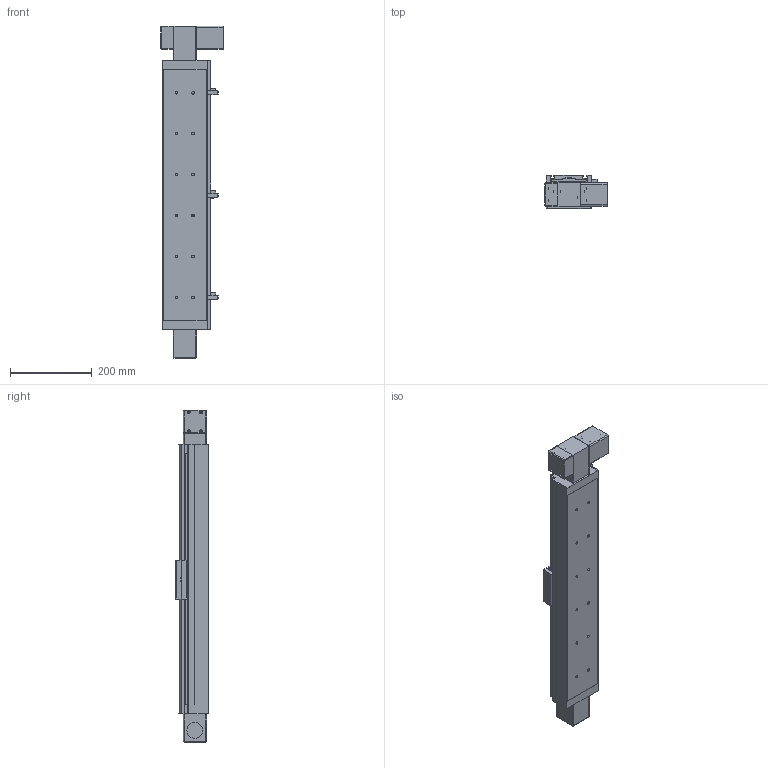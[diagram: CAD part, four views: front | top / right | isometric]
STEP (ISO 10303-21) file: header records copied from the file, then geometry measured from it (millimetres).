
FILE_DESCRIPTION((''),'2;1');
FILE_NAME('E:\uia actuator\UIA actuator 3d- 2015\Belt drive actuator\UIA110BR12(15)DC\UIA110BR12(15)DC-STEP FILE\UIA110BR12(15) stp file 13May16\UIA110BR12(15)DC-500-M23-P13-C10-S.stp','2016-05-13T15:40:34',('h029'),(''),'Autodesk Inventor 11','Autodesk Inventor 11','');
FILE_SCHEMA(('AUTOMOTIVE_DESIGN { 1 0 10303 214 1 1 1 1 }'));
Length unit declared in the file: millimetre
Products named in the file (11): UIA110BR12(15)DC-500; UIA110BR12(15)DC-500-body; UIA110BR12(15)DC-500-Sensor rail; UIA110B-Carriage; UIA110B- Sensor Flag; UIA110B-Cover; SOH-32C; SOH-32C-3; SOH-32C-1; SOH-32C-2; Motor mount
Assembly tree (10 placements, depth 3):
  UIA110BR12(15)DC-500
    UIA110BR12(15)DC-500-body
    UIA110BR12(15)DC-500-Sensor rail
    UIA110B-Carriage
    UIA110B- Sensor Flag
    UIA110B-Cover
    SOH-32C
      SOH-32C-3
      SOH-32C-1
      SOH-32C-2
    Motor mount
Bounding box: 152 x 81 x 811 mm (x, y, z)
Volume: 2719807.6 mm3; surface area: 726297.4 mm2
Topology: 9 solids, 13 shells, 724 faces, 2026 edges, 1304 vertices
Faces by surface type: plane 455, cylinder 179, cone 42, bspline 40, sphere 8
Full cylindrical faces by diameter (mm): 2.459 x4, 3 x2, 3.242 x8, 3.5 x4, 4 x10, 4.5 x4, 4.917 x8, 5 x2, 6.35 x1, 6.5 x12, 7.5 x4, 10 x3, 11 x12, 12 x1, 20 x2, 32 x3, 37 x1, 38.1 x1, 39 x2, 43.5 x1, 46 x2
Entity records: 23818 total; most frequent: CARTESIAN_POINT 5765, DIRECTION 3687, ORIENTED_EDGE 3534, EDGE_CURVE 1767, AXIS2_PLACEMENT_3D 1252, VERTEX_POINT 1216, VECTOR 1183, LINE 1183
